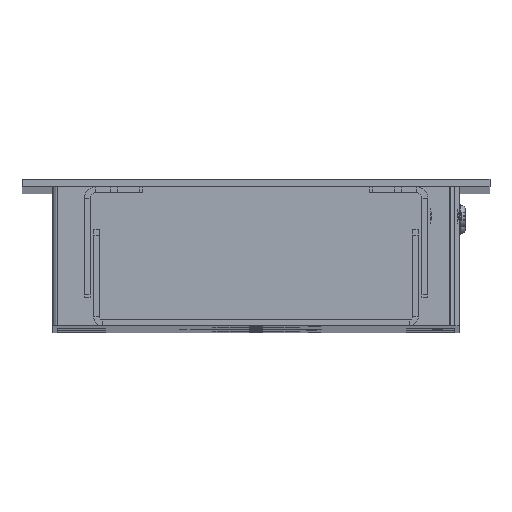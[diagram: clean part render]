
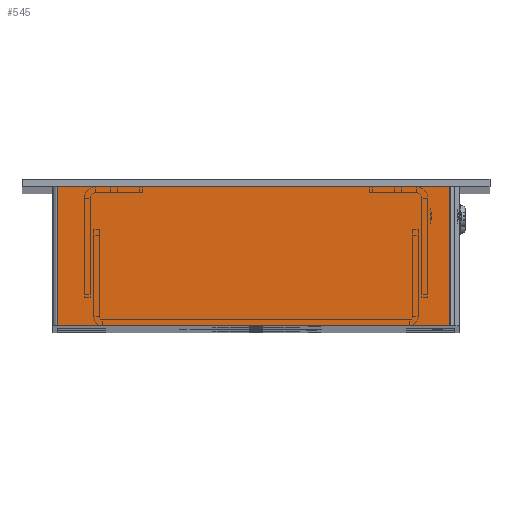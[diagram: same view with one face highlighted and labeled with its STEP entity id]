
A CAD part, top view. The second image highlights one B-rep face of the part: STEP entity #545.
In plain terms, the highlighted planar face has unit normal (0, 0, 1).
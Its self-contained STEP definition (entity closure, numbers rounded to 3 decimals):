
#545=ADVANCED_FACE('',(#1087),#8813,.T.);
#1087=FACE_OUTER_BOUND('',#1716,.T.);
#1716=EDGE_LOOP('',(#3822,#3823,#3824,#3825));
#3822=ORIENTED_EDGE('',*,*,#5732,.F.);
#3823=ORIENTED_EDGE('',*,*,#5744,.F.);
#3824=ORIENTED_EDGE('',*,*,#5735,.F.);
#3825=ORIENTED_EDGE('',*,*,#5711,.F.);
#5711=EDGE_CURVE('',#8263,#8264,#6797,.T.);
#5732=EDGE_CURVE('',#8272,#8263,#6811,.T.);
#5735=EDGE_CURVE('',#8264,#8274,#6814,.T.);
#5744=EDGE_CURVE('',#8274,#8272,#6823,.T.);
#6797=B_SPLINE_CURVE_WITH_KNOTS('',1,(#14328,#14329),.UNSPECIFIED.,.F.,
 .F.,(2,2),(0.,47.5),.UNSPECIFIED.);
#6811=B_SPLINE_CURVE_WITH_KNOTS('',1,(#14377,#14378),.UNSPECIFIED.,.F.,
 .F.,(2,2),(0.,134.1),.UNSPECIFIED.);
#6814=B_SPLINE_CURVE_WITH_KNOTS('',1,(#14383,#14384),.UNSPECIFIED.,.F.,
 .F.,(2,2),(0.,134.1),.UNSPECIFIED.);
#6823=B_SPLINE_CURVE_WITH_KNOTS('',1,(#14401,#14402),.UNSPECIFIED.,.F.,
 .F.,(2,2),(0.,47.5),.UNSPECIFIED.);
#8263=VERTEX_POINT('',#14065);
#8264=VERTEX_POINT('',#14066);
#8272=VERTEX_POINT('',#14074);
#8274=VERTEX_POINT('',#14076);
#8813=PLANE('',#9541);
#9541=AXIS2_PLACEMENT_3D('',#13987,#10068,$);
#10068=DIRECTION('',(0.,0.,1.));
#13987=CARTESIAN_POINT('',(79.83,-6.08,677.5));
#14065=CARTESIAN_POINT('',(66.3,46.29,677.5));
#14066=CARTESIAN_POINT('',(66.3,-1.21,677.5));
#14074=CARTESIAN_POINT('',(-67.8,46.29,677.5));
#14076=CARTESIAN_POINT('',(-67.8,-1.21,677.5));
#14328=CARTESIAN_POINT('',(66.3,46.29,677.5));
#14329=CARTESIAN_POINT('',(66.3,-1.21,677.5));
#14377=CARTESIAN_POINT('',(-67.8,46.29,677.5));
#14378=CARTESIAN_POINT('',(66.3,46.29,677.5));
#14383=CARTESIAN_POINT('',(66.3,-1.21,677.5));
#14384=CARTESIAN_POINT('',(-67.8,-1.21,677.5));
#14401=CARTESIAN_POINT('',(-67.8,-1.21,677.5));
#14402=CARTESIAN_POINT('',(-67.8,46.29,677.5));
